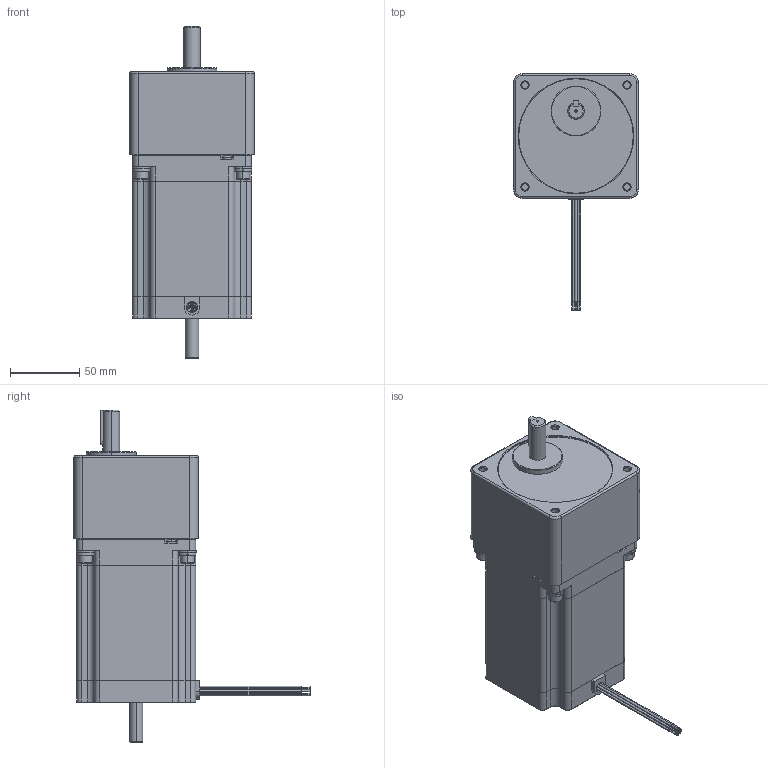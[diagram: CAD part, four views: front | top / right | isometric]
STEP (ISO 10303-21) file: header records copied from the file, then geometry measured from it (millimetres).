
FILE_DESCRIPTION (( 'STEP AP214' ), '1' );
FILE_NAME ('34YSG208D-LW8-R50.STEP', '2010-06-18T16:40:25', ( 'Tim Raines' ), ( 'Anaheim Automation' ), 'SwSTEP 2.0', 'SolidWorks 2010', '' );
FILE_SCHEMA (( 'AUTOMOTIVE_DESIGN' ));
Length unit declared in the file: millimetre
Products named in the file (6): 34YSG Motor_34YSG208D-LW8; Lock Washer Spring Regular_AI_Regular LW 0.25; 34SG Series_34SG2; Flat Washer Narrow_AM_B18.22M - Plain washer, 6 mm, narrow; Socket Head Cap Screw_AM_B18.3.1M - 6 x 1.0 x 20 Hex SHCS -- 20NHX; 34YSG208D-LW8-R50
Assembly tree (14 placements, depth 2):
  34YSG208D-LW8-R50
    Socket Head Cap Screw_AM_B18.3.1M - 6 x 1.0 x 20 Hex SHCS -- 20NHX  x4
    Flat Washer Narrow_AM_B18.22M - Plain washer, 6 mm, narrow  x4
    Lock Washer Spring Regular_AI_Regular LW 0.25  x4
    34SG Series_34SG2
    34YSG Motor_34YSG208D-LW8
Bounding box: 89.92 x 170.43 x 239.55 mm (x, y, z)
Volume: 1269568.6 mm3; surface area: 110152.4 mm2
Topology: 14 solids, 14 shells, 587 faces, 1391 edges, 862 vertices
Faces by surface type: plane 272, cylinder 194, cone 101, torus 20
Entity records: 18773 total; most frequent: CARTESIAN_POINT 2631, DIRECTION 2475, ORIENTED_EDGE 2262, EDGE_CURVE 1131, AXIS2_PLACEMENT_3D 919, VERTEX_POINT 715, LINE 637, VECTOR 637
